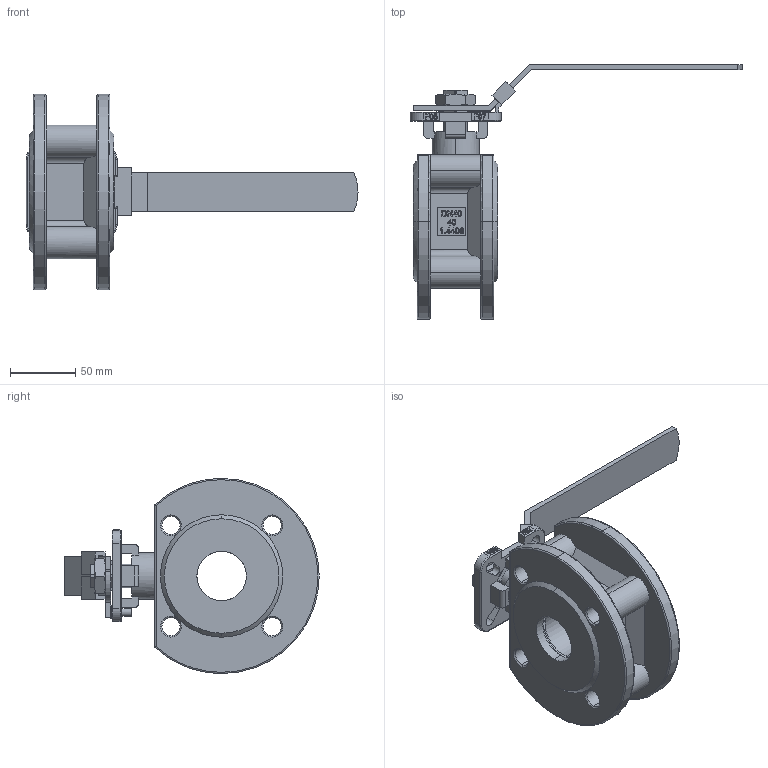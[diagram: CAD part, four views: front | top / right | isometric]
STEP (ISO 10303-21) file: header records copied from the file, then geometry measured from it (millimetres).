
FILE_DESCRIPTION (( 'STEP AP203' ), '1' );
FILE_NAME ('1PC肅梓情倰蚾饜极40.STEP', '2024-04-11T02:43:08', ( '' ), ( '' ), 'SwSTEP 2.0', 'SolidWorks 2016', '' );
FILE_SCHEMA (( 'CONFIG_CONTROL_DESIGN' ));
Length unit declared in the file: millimetre
Products named in the file (9): 坶輸40; hexagon socket head cap screws gb_GB_FASTENER_SCREWS_HSHCS M6X10-N; 概裝DN40; 球40; 忒梟DN40; 1PC肅梓情倰蚾饜极40; 40概极; 40侧塞; hex thin nuts grades ab gb_GB_FASTENER_NUT_STNABTT  B M18X1.5-N
Assembly tree (8 placements, depth 2):
  1PC肅梓情倰蚾饜极40
    40概极
    球40
    40侧塞
    概裝DN40
    忒梟DN40
    hex thin nuts grades ab gb_GB_FASTENER_NUT_STNABTT  B M18X1.5-N
    hexagon socket head cap screws gb_GB_FASTENER_SCREWS_HSHCS M6X10-N
    坶輸40
Bounding box: 255 x 195.5 x 150 mm (x, y, z)
Volume: 624504.7 mm3; surface area: 164478.6 mm2
Topology: 8 solids, 8 shells, 601 faces, 1560 edges, 999 vertices
Faces by surface type: plane 313, cylinder 118, bspline 88, cone 48, torus 28, sphere 6
Entity records: 24444 total; most frequent: CARTESIAN_POINT 9149, ORIENTED_EDGE 3096, DIRECTION 2769, EDGE_CURVE 1548, VERTEX_POINT 995, LINE 943, VECTOR 943, AXIS2_PLACEMENT_3D 913
